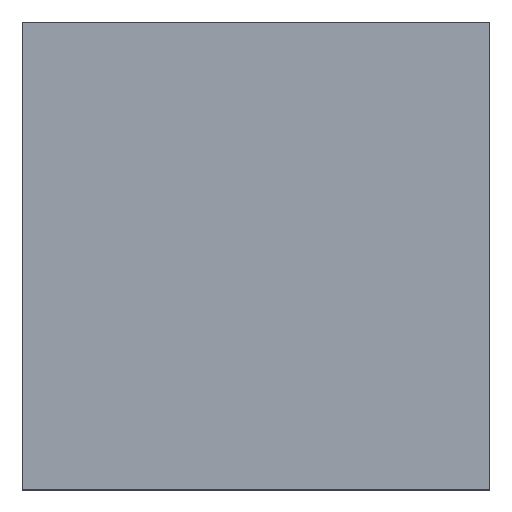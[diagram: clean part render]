
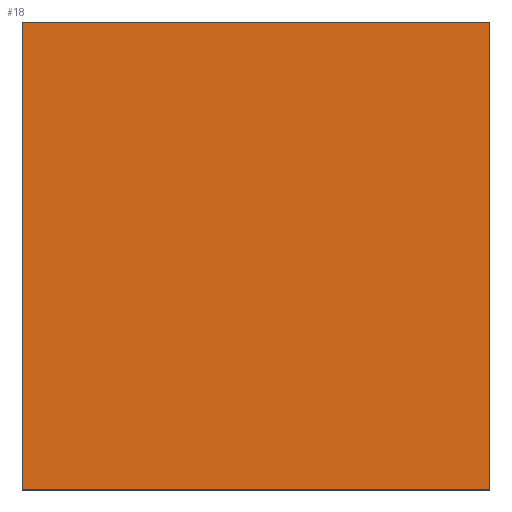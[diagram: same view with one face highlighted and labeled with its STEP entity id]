
A CAD part, top view. The second image highlights one B-rep face of the part: STEP entity #18.
In plain terms, the highlighted planar face has unit normal (0, 0, 1).
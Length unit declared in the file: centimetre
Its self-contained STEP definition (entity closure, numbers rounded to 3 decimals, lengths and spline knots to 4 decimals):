
#7 = ORIENTED_EDGE ( 'NONE', *, *, #431, .T. ) ;
#13 = VERTEX_POINT ( 'NONE', #302 ) ;
#18 = ADVANCED_FACE ( 'NONE', ( #115 ), #342, .T. ) ;
#26 = DIRECTION ( 'NONE',  ( 1., 0., 0. ) ) ;
#33 = LINE ( 'NONE', #453, #101 ) ;
#67 = DIRECTION ( 'NONE',  ( 1., 0., 0. ) ) ;
#72 = DIRECTION ( 'NONE',  ( 0., -1., 0. ) ) ;
#86 = CARTESIAN_POINT ( 'NONE',  ( 0., 0., 1000. ) ) ;
#92 = CARTESIAN_POINT ( 'NONE',  ( 1000., 1000., 1000. ) ) ;
#93 = VECTOR ( 'NONE', #67, 100. ) ;
#97 = CARTESIAN_POINT ( 'NONE',  ( 0., 1000., 1000. ) ) ;
#101 = VECTOR ( 'NONE', #245, 100. ) ;
#104 = EDGE_CURVE ( 'NONE', #253, #345, #33, .T. ) ;
#115 = FACE_OUTER_BOUND ( 'NONE', #197, .T. ) ;
#119 = EDGE_CURVE ( 'NONE', #448, #13, #243, .T. ) ;
#124 = LINE ( 'NONE', #92, #136 ) ;
#126 = CARTESIAN_POINT ( 'NONE',  ( 0., 0., 1000. ) ) ;
#136 = VECTOR ( 'NONE', #262, 100. ) ;
#189 = ORIENTED_EDGE ( 'NONE', *, *, #258, .T. ) ;
#197 = EDGE_LOOP ( 'NONE', ( #7, #427, #189, #444 ) ) ;
#243 = LINE ( 'NONE', #385, #93 ) ;
#245 = DIRECTION ( 'NONE',  ( -1., 0., 0. ) ) ;
#253 = VERTEX_POINT ( 'NONE', #315 ) ;
#258 = EDGE_CURVE ( 'NONE', #13, #253, #124, .T. ) ;
#262 = DIRECTION ( 'NONE',  ( 0., 1., 0. ) ) ;
#288 = AXIS2_PLACEMENT_3D ( 'NONE', #126, #306, #26 ) ;
#302 = CARTESIAN_POINT ( 'NONE',  ( 1000., 0., 1000. ) ) ;
#306 = DIRECTION ( 'NONE',  ( 0., 0., 1. ) ) ;
#315 = CARTESIAN_POINT ( 'NONE',  ( 1000., 1000., 1000. ) ) ;
#342 = PLANE ( 'NONE',  #288 ) ;
#345 = VERTEX_POINT ( 'NONE', #97 ) ;
#385 = CARTESIAN_POINT ( 'NONE',  ( 0., 0., 1000. ) ) ;
#390 = CARTESIAN_POINT ( 'NONE',  ( 0., 1000., 1000. ) ) ;
#393 = LINE ( 'NONE', #390, #451 ) ;
#427 = ORIENTED_EDGE ( 'NONE', *, *, #119, .T. ) ;
#431 = EDGE_CURVE ( 'NONE', #345, #448, #393, .T. ) ;
#444 = ORIENTED_EDGE ( 'NONE', *, *, #104, .T. ) ;
#448 = VERTEX_POINT ( 'NONE', #86 ) ;
#451 = VECTOR ( 'NONE', #72, 100. ) ;
#453 = CARTESIAN_POINT ( 'NONE',  ( 0., 1000., 1000. ) ) ;
